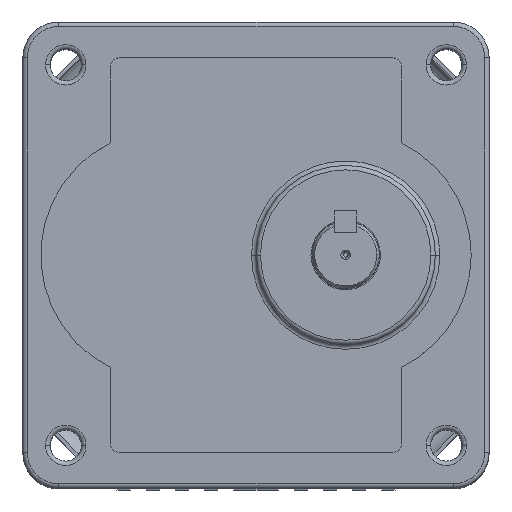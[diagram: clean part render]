
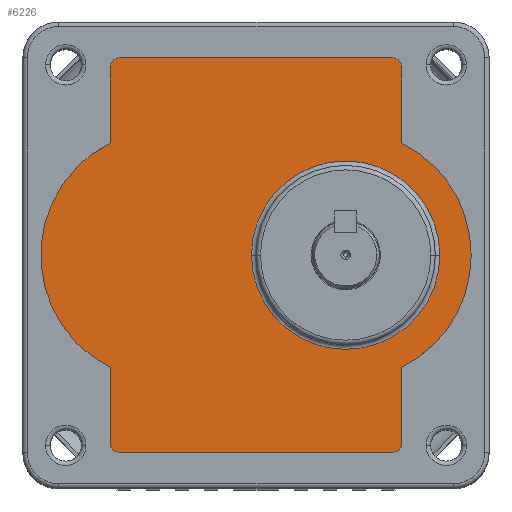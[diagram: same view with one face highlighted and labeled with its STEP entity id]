
A CAD part, top view. The second image highlights one B-rep face of the part: STEP entity #6226.
In plain terms, the highlighted planar face has unit normal (0, 0, 1).
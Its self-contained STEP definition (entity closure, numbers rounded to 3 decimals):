
#107 = CARTESIAN_POINT ( 'NONE',  ( -89.275, 21.464, 127.25 ) ) ;
#115 = FACE_BOUND ( 'NONE', #223, .T. ) ;
#159 = VERTEX_POINT ( 'NONE', #107 ) ;
#223 = EDGE_LOOP ( 'NONE', ( #7869, #8942 ) ) ;
#282 = CARTESIAN_POINT ( 'NONE',  ( -56.775, 23.464, 127.25 ) ) ;
#361 = DIRECTION ( 'NONE',  ( 0., 0., -1. ) ) ;
#409 = VERTEX_POINT ( 'NONE', #13295 ) ;
#535 = DIRECTION ( 'NONE',  ( 0., 0., 1. ) ) ;
#660 = VERTEX_POINT ( 'NONE', #5305 ) ;
#787 = ORIENTED_EDGE ( 'NONE', *, *, #9556, .T. ) ;
#887 = DIRECTION ( 'NONE',  ( 1., 0., 0. ) ) ;
#929 = DIRECTION ( 'NONE',  ( 0., -1., 0. ) ) ;
#957 = CIRCLE ( 'NONE', #1441, 2. ) ;
#1070 = CARTESIAN_POINT ( 'NONE',  ( -76.775, -20.536, 127.25 ) ) ;
#1191 = CARTESIAN_POINT ( 'NONE',  ( -87.275, 21.464, 127.25 ) ) ;
#1416 = DIRECTION ( 'NONE',  ( 0., 0., 1. ) ) ;
#1441 = AXIS2_PLACEMENT_3D ( 'NONE', #6634, #16205, #8007 ) ;
#1547 = EDGE_CURVE ( 'NONE', #7266, #4298, #14640, .T. ) ;
#1669 = DIRECTION ( 'NONE',  ( 0., 0., 1. ) ) ;
#1670 = CIRCLE ( 'NONE', #8028, 28. ) ;
#1930 = ORIENTED_EDGE ( 'NONE', *, *, #12369, .F. ) ;
#2128 = CARTESIAN_POINT ( 'NONE',  ( -89.275, -45.591, 127.25 ) ) ;
#2224 = AXIS2_PLACEMENT_3D ( 'NONE', #5101, #14672, #6472 ) ;
#2286 = CARTESIAN_POINT ( 'NONE',  ( -36.775, -20.536, 127.25 ) ) ;
#2433 = DIRECTION ( 'NONE',  ( 1., 0., 0. ) ) ;
#2531 = VERTEX_POINT ( 'NONE', #12809 ) ;
#2568 = DIRECTION ( 'NONE',  ( 1., 0., 0. ) ) ;
#2971 = ORIENTED_EDGE ( 'NONE', *, *, #6608, .T. ) ;
#3067 = CIRCLE ( 'NONE', #3630, 2. ) ;
#3107 = CARTESIAN_POINT ( 'NONE',  ( -26.275, 23.464, 127.25 ) ) ;
#3570 = CARTESIAN_POINT ( 'NONE',  ( -24.275, -62.536, 127.25 ) ) ;
#3630 = AXIS2_PLACEMENT_3D ( 'NONE', #1191, #10741, #2568 ) ;
#3658 = DIRECTION ( 'NONE',  ( 1., 0., 0. ) ) ;
#3737 = DIRECTION ( 'NONE',  ( 0., -1., 0. ) ) ;
#3863 = EDGE_CURVE ( 'NONE', #16025, #7266, #15388, .T. ) ;
#4298 = VERTEX_POINT ( 'NONE', #12950 ) ;
#4344 = LINE ( 'NONE', #9097, #14815 ) ;
#5101 = CARTESIAN_POINT ( 'NONE',  ( -26.275, 21.464, 127.25 ) ) ;
#5112 = EDGE_CURVE ( 'NONE', #7320, #2531, #10212, .T. ) ;
#5206 = CARTESIAN_POINT ( 'NONE',  ( -87.275, 23.464, 127.25 ) ) ;
#5221 = EDGE_CURVE ( 'NONE', #7938, #4298, #12146, .T. ) ;
#5305 = CARTESIAN_POINT ( 'NONE',  ( -26.275, -64.536, 127.25 ) ) ;
#5348 = EDGE_CURVE ( 'NONE', #660, #16646, #10418, .T. ) ;
#6181 = VERTEX_POINT ( 'NONE', #11115 ) ;
#6226 = ADVANCED_FACE ( 'NONE', ( #115, #17428 ), #9834, .T. ) ;
#6330 = AXIS2_PLACEMENT_3D ( 'NONE', #8509, #361, #9915 ) ;
#6443 = VECTOR ( 'NONE', #16654, 1000. ) ;
#6445 = VERTEX_POINT ( 'NONE', #2128 ) ;
#6453 = LINE ( 'NONE', #12547, #16519 ) ;
#6464 = CARTESIAN_POINT ( 'NONE',  ( -24.275, 21.464, 127.25 ) ) ;
#6472 = DIRECTION ( 'NONE',  ( 1., 0., 0. ) ) ;
#6608 = EDGE_CURVE ( 'NONE', #409, #6181, #957, .T. ) ;
#6622 = ORIENTED_EDGE ( 'NONE', *, *, #9892, .T. ) ;
#6634 = CARTESIAN_POINT ( 'NONE',  ( -87.275, -62.536, 127.25 ) ) ;
#6644 = CARTESIAN_POINT ( 'NONE',  ( -15.775, -20.536, 127.25 ) ) ;
#6938 = VERTEX_POINT ( 'NONE', #15281 ) ;
#7115 = ORIENTED_EDGE ( 'NONE', *, *, #13447, .T. ) ;
#7266 = VERTEX_POINT ( 'NONE', #6464 ) ;
#7320 = VERTEX_POINT ( 'NONE', #6644 ) ;
#7869 = ORIENTED_EDGE ( 'NONE', *, *, #5112, .T. ) ;
#7938 = VERTEX_POINT ( 'NONE', #11681 ) ;
#8007 = DIRECTION ( 'NONE',  ( 1., 0., 0. ) ) ;
#8028 = AXIS2_PLACEMENT_3D ( 'NONE', #1070, #10617, #2433 ) ;
#8077 = ORIENTED_EDGE ( 'NONE', *, *, #15778, .F. ) ;
#8445 = LINE ( 'NONE', #15441, #10810 ) ;
#8509 = CARTESIAN_POINT ( 'NONE',  ( -36.775, -20.536, 127.25 ) ) ;
#8577 = EDGE_CURVE ( 'NONE', #12523, #159, #3067, .T. ) ;
#8690 = CARTESIAN_POINT ( 'NONE',  ( -36.775, -20.536, 127.25 ) ) ;
#8942 = ORIENTED_EDGE ( 'NONE', *, *, #12600, .T. ) ;
#9045 = DIRECTION ( 'NONE',  ( 0., 0., 1. ) ) ;
#9097 = CARTESIAN_POINT ( 'NONE',  ( -24.275, -20.536, 127.25 ) ) ;
#9556 = EDGE_CURVE ( 'NONE', #6938, #7938, #12324, .T. ) ;
#9579 = CARTESIAN_POINT ( 'NONE',  ( -36.775, -20.536, 127.25 ) ) ;
#9834 = PLANE ( 'NONE',  #12329 ) ;
#9837 = DIRECTION ( 'NONE',  ( 0., -1., 0. ) ) ;
#9892 = EDGE_CURVE ( 'NONE', #6181, #660, #8445, .T. ) ;
#9915 = DIRECTION ( 'NONE',  ( 1., 0., 0. ) ) ;
#10079 = DIRECTION ( 'NONE',  ( 1., 0., 0. ) ) ;
#10154 = VECTOR ( 'NONE', #3737, 1000. ) ;
#10164 = EDGE_CURVE ( 'NONE', #6445, #409, #10577, .T. ) ;
#10212 = CIRCLE ( 'NONE', #6330, 21. ) ;
#10418 = CIRCLE ( 'NONE', #10583, 2. ) ;
#10577 = LINE ( 'NONE', #13303, #10154 ) ;
#10583 = AXIS2_PLACEMENT_3D ( 'NONE', #17253, #9045, #887 ) ;
#10617 = DIRECTION ( 'NONE',  ( 0., 0., -1. ) ) ;
#10741 = DIRECTION ( 'NONE',  ( 0., 0., 1. ) ) ;
#10810 = VECTOR ( 'NONE', #11352, 1000. ) ;
#10853 = AXIS2_PLACEMENT_3D ( 'NONE', #9579, #1416, #10979 ) ;
#10979 = DIRECTION ( 'NONE',  ( 1., 0., 0. ) ) ;
#11030 = VECTOR ( 'NONE', #16504, 1000. ) ;
#11115 = CARTESIAN_POINT ( 'NONE',  ( -87.275, -64.536, 127.25 ) ) ;
#11234 = DIRECTION ( 'NONE',  ( 1., 0., 0. ) ) ;
#11352 = DIRECTION ( 'NONE',  ( 1., 0., 0. ) ) ;
#11400 = LINE ( 'NONE', #282, #6443 ) ;
#11509 = ORIENTED_EDGE ( 'NONE', *, *, #5348, .T. ) ;
#11681 = CARTESIAN_POINT ( 'NONE',  ( -8.775, -20.536, 127.25 ) ) ;
#11774 = VERTEX_POINT ( 'NONE', #15768 ) ;
#11843 = DIRECTION ( 'NONE',  ( 0., 0., -1. ) ) ;
#12124 = EDGE_CURVE ( 'NONE', #12523, #16025, #11400, .T. ) ;
#12146 = CIRCLE ( 'NONE', #14587, 28. ) ;
#12265 = CIRCLE ( 'NONE', #14705, 21. ) ;
#12324 = CIRCLE ( 'NONE', #10853, 28. ) ;
#12329 = AXIS2_PLACEMENT_3D ( 'NONE', #16591, #1669, #11234 ) ;
#12369 = EDGE_CURVE ( 'NONE', #6938, #16646, #4344, .T. ) ;
#12486 = ORIENTED_EDGE ( 'NONE', *, *, #5221, .T. ) ;
#12523 = VERTEX_POINT ( 'NONE', #5206 ) ;
#12547 = CARTESIAN_POINT ( 'NONE',  ( -89.275, -20.536, 127.25 ) ) ;
#12600 = EDGE_CURVE ( 'NONE', #2531, #7320, #12265, .T. ) ;
#12809 = CARTESIAN_POINT ( 'NONE',  ( -57.775, -20.536, 127.25 ) ) ;
#12950 = CARTESIAN_POINT ( 'NONE',  ( -24.275, 4.519, 127.25 ) ) ;
#13295 = CARTESIAN_POINT ( 'NONE',  ( -89.275, -62.536, 127.25 ) ) ;
#13303 = CARTESIAN_POINT ( 'NONE',  ( -89.275, -20.536, 127.25 ) ) ;
#13447 = EDGE_CURVE ( 'NONE', #159, #11774, #6453, .T. ) ;
#13516 = EDGE_LOOP ( 'NONE', ( #14158, #14438, #7115, #8077, #15246, #2971, #6622, #11509, #1930, #787, #12486, #17079, #14516 ) ) ;
#14158 = ORIENTED_EDGE ( 'NONE', *, *, #12124, .F. ) ;
#14438 = ORIENTED_EDGE ( 'NONE', *, *, #8577, .T. ) ;
#14516 = ORIENTED_EDGE ( 'NONE', *, *, #3863, .F. ) ;
#14587 = AXIS2_PLACEMENT_3D ( 'NONE', #8690, #535, #10079 ) ;
#14640 = LINE ( 'NONE', #15127, #11030 ) ;
#14672 = DIRECTION ( 'NONE',  ( 0., 0., -1. ) ) ;
#14705 = AXIS2_PLACEMENT_3D ( 'NONE', #2286, #11843, #3658 ) ;
#14815 = VECTOR ( 'NONE', #929, 1000. ) ;
#15127 = CARTESIAN_POINT ( 'NONE',  ( -24.275, -20.536, 127.25 ) ) ;
#15246 = ORIENTED_EDGE ( 'NONE', *, *, #10164, .T. ) ;
#15281 = CARTESIAN_POINT ( 'NONE',  ( -24.275, -45.591, 127.25 ) ) ;
#15388 = CIRCLE ( 'NONE', #2224, 2. ) ;
#15441 = CARTESIAN_POINT ( 'NONE',  ( -56.775, -64.536, 127.25 ) ) ;
#15768 = CARTESIAN_POINT ( 'NONE',  ( -89.275, 4.519, 127.25 ) ) ;
#15778 = EDGE_CURVE ( 'NONE', #6445, #11774, #1670, .T. ) ;
#16025 = VERTEX_POINT ( 'NONE', #3107 ) ;
#16205 = DIRECTION ( 'NONE',  ( 0., 0., 1. ) ) ;
#16504 = DIRECTION ( 'NONE',  ( 0., -1., 0. ) ) ;
#16519 = VECTOR ( 'NONE', #9837, 1000. ) ;
#16591 = CARTESIAN_POINT ( 'NONE',  ( -56.775, -20.536, 127.25 ) ) ;
#16646 = VERTEX_POINT ( 'NONE', #3570 ) ;
#16654 = DIRECTION ( 'NONE',  ( 1., 0., 0. ) ) ;
#17079 = ORIENTED_EDGE ( 'NONE', *, *, #1547, .F. ) ;
#17253 = CARTESIAN_POINT ( 'NONE',  ( -26.275, -62.536, 127.25 ) ) ;
#17428 = FACE_OUTER_BOUND ( 'NONE', #13516, .T. ) ;
